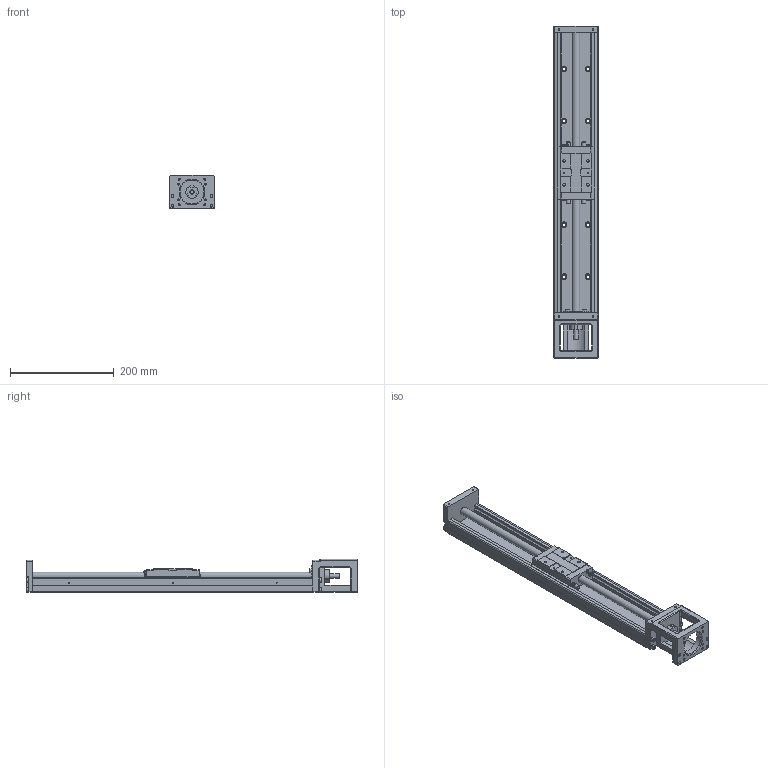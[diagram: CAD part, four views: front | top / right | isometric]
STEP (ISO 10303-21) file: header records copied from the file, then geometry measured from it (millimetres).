
FILE_DESCRIPTION(/* description */ (''),/* implementation_level */ '2;1');
FILE_NAME(/* name */ 'FKL80E540 05(10.16)C7.stp',/* time_stamp */ '2018-12-26T09:45:17+08:00',/* author */ (''),/* organization */ (''),/* preprocessor_version */ 'ST-DEVELOPER v16',/* originating_system */ 'SIEMENS PLM Software NX 10.0',/* authorisation */ '');
FILE_SCHEMA (('AUTOMOTIVE_DESIGN { 1 0 10303 214 3 1 1 1 }'));
Length unit declared in the file: millimetre
Products named in the file (3): 滑块.KK86-A1; 轨道.KK86-540; FKL80E540 05(10.16)C7
Assembly tree (2 placements, depth 2):
  FKL80E540 05(10.16)C7
    轨道.KK86-540
    滑块.KK86-A1
Bounding box: 86 x 640 x 64 mm (x, y, z)
Volume: 1208964 mm3; surface area: 262744.8 mm2
Topology: 2 solids, 2 shells, 510 faces, 1304 edges, 855 vertices
Faces by surface type: plane 299, cylinder 165, torus 20, cone 17, sphere 9
Full cylindrical faces by diameter (mm): 2.05 x6, 2.15 x2, 3.3 x9, 4.2 x4, 4.5 x4, 5 x4, 5.5 x4, 6.5 x2, 6.6 x10, 7.5 x8, 8 x5, 8.5 x8, 11 x10, 15 x2, 19 x1, 46 x1, 50 x1
Entity records: 14776 total; most frequent: CARTESIAN_POINT 2583, DIRECTION 2495, ORIENTED_EDGE 2238, EDGE_CURVE 1119, AXIS2_PLACEMENT_3D 886, VERTEX_POINT 777, LINE 723, VECTOR 723
